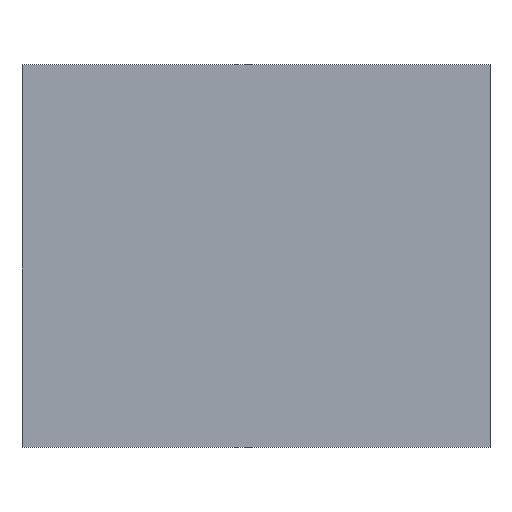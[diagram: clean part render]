
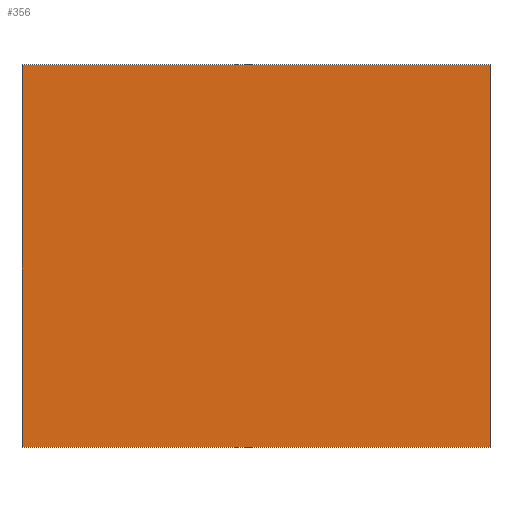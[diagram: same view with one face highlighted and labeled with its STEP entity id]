
A CAD part, top view. The second image highlights one B-rep face of the part: STEP entity #356.
In plain terms, the highlighted planar face has unit normal (0, 0, 1).
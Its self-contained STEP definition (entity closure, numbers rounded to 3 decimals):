
#42 = VERTEX_POINT('',#43);
#43 = CARTESIAN_POINT('',(-35.,17.,38.2));
#50 = PLANE('',#51);
#51 = AXIS2_PLACEMENT_3D('',#52,#53,#54);
#52 = CARTESIAN_POINT('',(-35.,17.,36.6));
#53 = DIRECTION('',(1.,0.,0.));
#54 = DIRECTION('',(0.,0.,1.));
#62 = PLANE('',#63);
#63 = AXIS2_PLACEMENT_3D('',#64,#65,#66);
#64 = CARTESIAN_POINT('',(-35.,17.,36.6));
#65 = DIRECTION('',(0.,1.,0.));
#66 = DIRECTION('',(0.,0.,1.));
#103 = VERTEX_POINT('',#104);
#104 = CARTESIAN_POINT('',(-35.,35.,38.2));
#118 = PLANE('',#119);
#119 = AXIS2_PLACEMENT_3D('',#120,#121,#122);
#120 = CARTESIAN_POINT('',(-35.,35.,36.6));
#121 = DIRECTION('',(0.,1.,0.));
#122 = DIRECTION('',(0.,0.,1.));
#130 = EDGE_CURVE('',#42,#103,#131,.T.);
#131 = SURFACE_CURVE('',#132,(#136,#143),.PCURVE_S1.);
#132 = LINE('',#133,#134);
#133 = CARTESIAN_POINT('',(-35.,17.,38.2));
#134 = VECTOR('',#135,1.);
#135 = DIRECTION('',(0.,1.,0.));
#136 = PCURVE('',#50,#137);
#137 = DEFINITIONAL_REPRESENTATION('',(#138),#142);
#138 = LINE('',#139,#140);
#139 = CARTESIAN_POINT('',(1.6,0.));
#140 = VECTOR('',#141,1.);
#141 = DIRECTION('',(0.,-1.));
#142 = ( GEOMETRIC_REPRESENTATION_CONTEXT(2) 
PARAMETRIC_REPRESENTATION_CONTEXT() REPRESENTATION_CONTEXT('2D SPACE',''
  ) );
#143 = PCURVE('',#144,#149);
#144 = PLANE('',#145);
#145 = AXIS2_PLACEMENT_3D('',#146,#147,#148);
#146 = CARTESIAN_POINT('',(-35.,17.,38.2));
#147 = DIRECTION('',(0.,0.,1.));
#148 = DIRECTION('',(1.,0.,0.));
#149 = DEFINITIONAL_REPRESENTATION('',(#150),#154);
#150 = LINE('',#151,#152);
#151 = CARTESIAN_POINT('',(0.,0.));
#152 = VECTOR('',#153,1.);
#153 = DIRECTION('',(0.,1.));
#154 = ( GEOMETRIC_REPRESENTATION_CONTEXT(2) 
PARAMETRIC_REPRESENTATION_CONTEXT() REPRESENTATION_CONTEXT('2D SPACE',''
  ) );
#162 = VERTEX_POINT('',#163);
#163 = CARTESIAN_POINT('',(-13.,17.,38.2));
#170 = PLANE('',#171);
#171 = AXIS2_PLACEMENT_3D('',#172,#173,#174);
#172 = CARTESIAN_POINT('',(-13.,17.,36.6));
#173 = DIRECTION('',(1.,0.,0.));
#174 = DIRECTION('',(0.,0.,1.));
#213 = VERTEX_POINT('',#214);
#214 = CARTESIAN_POINT('',(-13.,35.,38.2));
#235 = EDGE_CURVE('',#162,#213,#236,.T.);
#236 = SURFACE_CURVE('',#237,(#241,#248),.PCURVE_S1.);
#237 = LINE('',#238,#239);
#238 = CARTESIAN_POINT('',(-13.,17.,38.2));
#239 = VECTOR('',#240,1.);
#240 = DIRECTION('',(0.,1.,0.));
#241 = PCURVE('',#170,#242);
#242 = DEFINITIONAL_REPRESENTATION('',(#243),#247);
#243 = LINE('',#244,#245);
#244 = CARTESIAN_POINT('',(1.6,0.));
#245 = VECTOR('',#246,1.);
#246 = DIRECTION('',(0.,-1.));
#247 = ( GEOMETRIC_REPRESENTATION_CONTEXT(2) 
PARAMETRIC_REPRESENTATION_CONTEXT() REPRESENTATION_CONTEXT('2D SPACE',''
  ) );
#248 = PCURVE('',#144,#249);
#249 = DEFINITIONAL_REPRESENTATION('',(#250),#254);
#250 = LINE('',#251,#252);
#251 = CARTESIAN_POINT('',(22.,0.));
#252 = VECTOR('',#253,1.);
#253 = DIRECTION('',(0.,1.));
#254 = ( GEOMETRIC_REPRESENTATION_CONTEXT(2) 
PARAMETRIC_REPRESENTATION_CONTEXT() REPRESENTATION_CONTEXT('2D SPACE',''
  ) );
#281 = EDGE_CURVE('',#42,#162,#282,.T.);
#282 = SURFACE_CURVE('',#283,(#287,#294),.PCURVE_S1.);
#283 = LINE('',#284,#285);
#284 = CARTESIAN_POINT('',(-35.,17.,38.2));
#285 = VECTOR('',#286,1.);
#286 = DIRECTION('',(1.,0.,0.));
#287 = PCURVE('',#62,#288);
#288 = DEFINITIONAL_REPRESENTATION('',(#289),#293);
#289 = LINE('',#290,#291);
#290 = CARTESIAN_POINT('',(1.6,0.));
#291 = VECTOR('',#292,1.);
#292 = DIRECTION('',(0.,1.));
#293 = ( GEOMETRIC_REPRESENTATION_CONTEXT(2) 
PARAMETRIC_REPRESENTATION_CONTEXT() REPRESENTATION_CONTEXT('2D SPACE',''
  ) );
#294 = PCURVE('',#144,#295);
#295 = DEFINITIONAL_REPRESENTATION('',(#296),#300);
#296 = LINE('',#297,#298);
#297 = CARTESIAN_POINT('',(0.,0.));
#298 = VECTOR('',#299,1.);
#299 = DIRECTION('',(1.,0.));
#300 = ( GEOMETRIC_REPRESENTATION_CONTEXT(2) 
PARAMETRIC_REPRESENTATION_CONTEXT() REPRESENTATION_CONTEXT('2D SPACE',''
  ) );
#328 = EDGE_CURVE('',#103,#213,#329,.T.);
#329 = SURFACE_CURVE('',#330,(#334,#341),.PCURVE_S1.);
#330 = LINE('',#331,#332);
#331 = CARTESIAN_POINT('',(-35.,35.,38.2));
#332 = VECTOR('',#333,1.);
#333 = DIRECTION('',(1.,0.,0.));
#334 = PCURVE('',#118,#335);
#335 = DEFINITIONAL_REPRESENTATION('',(#336),#340);
#336 = LINE('',#337,#338);
#337 = CARTESIAN_POINT('',(1.6,0.));
#338 = VECTOR('',#339,1.);
#339 = DIRECTION('',(0.,1.));
#340 = ( GEOMETRIC_REPRESENTATION_CONTEXT(2) 
PARAMETRIC_REPRESENTATION_CONTEXT() REPRESENTATION_CONTEXT('2D SPACE',''
  ) );
#341 = PCURVE('',#144,#342);
#342 = DEFINITIONAL_REPRESENTATION('',(#343),#347);
#343 = LINE('',#344,#345);
#344 = CARTESIAN_POINT('',(0.,18.));
#345 = VECTOR('',#346,1.);
#346 = DIRECTION('',(1.,0.));
#347 = ( GEOMETRIC_REPRESENTATION_CONTEXT(2) 
PARAMETRIC_REPRESENTATION_CONTEXT() REPRESENTATION_CONTEXT('2D SPACE',''
  ) );
#356 = ADVANCED_FACE('',(#357),#144,.T.);
#357 = FACE_BOUND('',#358,.T.);
#358 = EDGE_LOOP('',(#359,#360,#361,#362));
#359 = ORIENTED_EDGE('',*,*,#130,.F.);
#360 = ORIENTED_EDGE('',*,*,#281,.T.);
#361 = ORIENTED_EDGE('',*,*,#235,.T.);
#362 = ORIENTED_EDGE('',*,*,#328,.F.);
